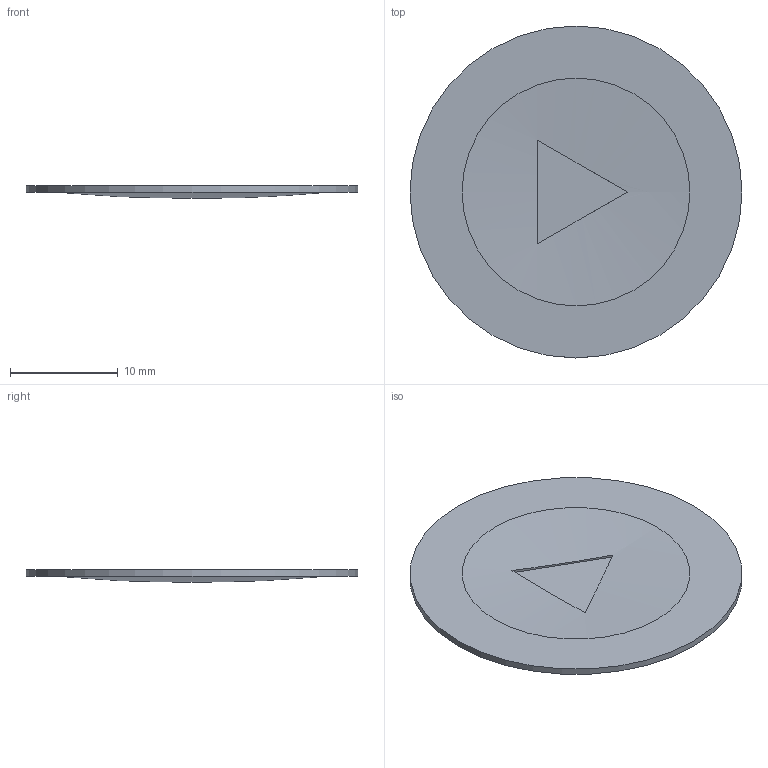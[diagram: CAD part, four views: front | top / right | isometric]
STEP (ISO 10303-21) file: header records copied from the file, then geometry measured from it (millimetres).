
FILE_DESCRIPTION(('Open CASCADE Model'),'2;1');
FILE_NAME('Open CASCADE Shape Model','2026-09-06T11:30:37',('Author'),( 'Open CASCADE'),'Open CASCADE STEP processor 7.7','Open CASCADE 7.7' ,'Unknown');
FILE_SCHEMA(('AUTOMOTIVE_DESIGN { 1 0 10303 214 1 1 1 1 }'));
Length unit declared in the file: millimetre
Products named in the file (1): Open CASCADE STEP translator 7.7 19
Bounding box: 30.8 x 30.8 x 1.2 mm (x, y, z)
Volume: 528.4 mm3; surface area: 1555.2 mm2
Topology: 1 solids, 1 shells, 9 faces, 17 edges, 11 vertices
Faces by surface type: plane 6, sphere 2, cylinder 1
Full cylindrical faces by diameter (mm): 30.8 x1
Entity records: 671 total; most frequent: CARTESIAN_POINT 308, DIRECTION 71, ORIENTED_EDGE 32, PCURVE 32, DEFINITIONAL_REPRESENTATION 32, LINE 27, VECTOR 27, AXIS2_PLACEMENT_3D 19
